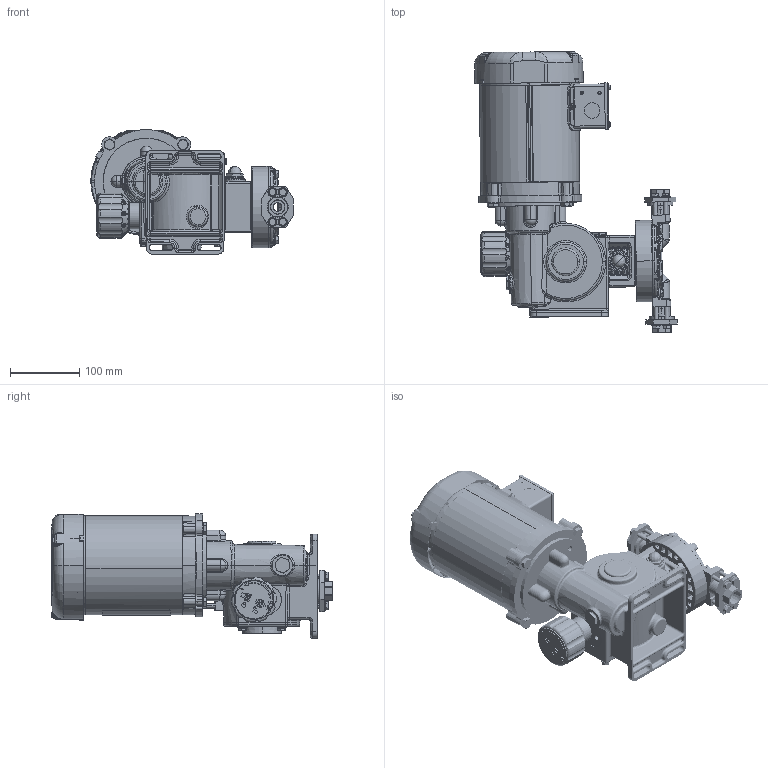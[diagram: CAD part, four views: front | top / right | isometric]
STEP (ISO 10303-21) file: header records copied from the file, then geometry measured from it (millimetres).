
FILE_DESCRIPTION (( 'STEP AP203' ), '1' );
FILE_NAME ('DM2D3AC.STEP', '2025-03-18T14:28:13', ( '' ), ( '' ), 'SwSTEP 2.0', 'SolidWorks 2023', '' );
FILE_SCHEMA (( 'CONFIG_CONTROL_DESIGN' ));
Length unit declared in the file: inch
Products named in the file (1): DM2D3AC
Bounding box: 291.47 x 404.56 x 179.33 mm (x, y, z)
Surface area: 488153.7 mm2 (no closed solid volume)
Topology: 0 solids, 270 shells, 2786 faces, 14005 edges, 11087 vertices
Faces by surface type: plane 894, cylinder 838, bspline 545, cone 277, torus 172, sphere 60
Entity records: 190985 total; most frequent: CARTESIAN_POINT 91897, ORIENTED_EDGE 19165, DIRECTION 17554, EDGE_CURVE 13944, VERTEX_POINT 11079, AXIS2_PLACEMENT_3D 6020, VECTOR 5514, LINE 5514
